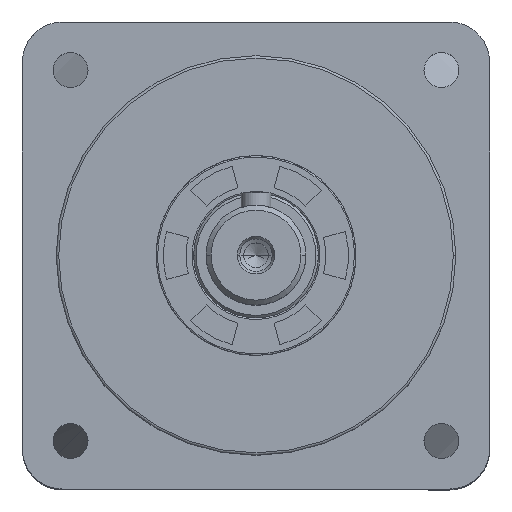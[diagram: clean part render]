
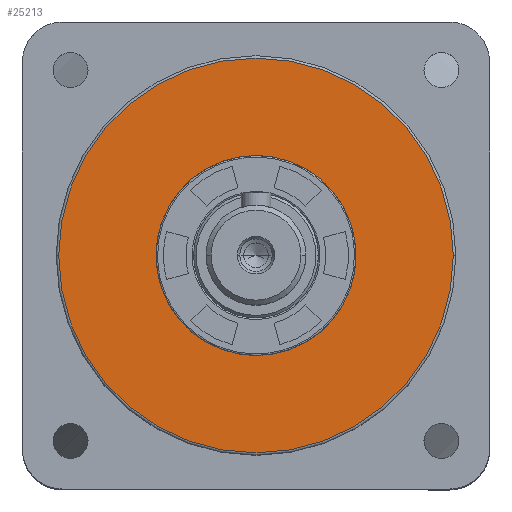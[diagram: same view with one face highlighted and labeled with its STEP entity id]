
A CAD part, top view. The second image highlights one B-rep face of the part: STEP entity #25213.
In plain terms, the highlighted planar face has unit normal (0, 0, 1).
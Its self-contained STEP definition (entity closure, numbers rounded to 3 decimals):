
#741 = DIRECTION ( 'NONE',  ( 1., 0., 0. ) ) ;
#1010 = CARTESIAN_POINT ( 'NONE',  ( -20., 0., 26.1 ) ) ;
#1582 = EDGE_CURVE ( 'NONE', #16801, #4778, #10796, .T. ) ;
#2613 = ORIENTED_EDGE ( 'NONE', *, *, #19435, .T. ) ;
#2721 = DIRECTION ( 'NONE',  ( 0., 0., 1. ) ) ;
#3459 = AXIS2_PLACEMENT_3D ( 'NONE', #27711, #15861, #15747 ) ;
#3501 = FACE_OUTER_BOUND ( 'NONE', #21608, .T. ) ;
#4732 = AXIS2_PLACEMENT_3D ( 'NONE', #15871, #6770, #25408 ) ;
#4778 = VERTEX_POINT ( 'NONE', #23982 ) ;
#5093 = ORIENTED_EDGE ( 'NONE', *, *, #9990, .F. ) ;
#5227 = CIRCLE ( 'NONE', #4732, 20. ) ;
#5784 = CIRCLE ( 'NONE', #3459, 20. ) ;
#6038 = PLANE ( 'NONE',  #26515 ) ;
#6356 = DIRECTION ( 'NONE',  ( 0., 0., 1. ) ) ;
#6770 = DIRECTION ( 'NONE',  ( 0., 0., 1. ) ) ;
#7053 = CARTESIAN_POINT ( 'NONE',  ( 0., 0., 26.1 ) ) ;
#7661 = DIRECTION ( 'NONE',  ( 0., 0., 1. ) ) ;
#8304 = CARTESIAN_POINT ( 'NONE',  ( 0., 0., 26.1 ) ) ;
#8688 = AXIS2_PLACEMENT_3D ( 'NONE', #7053, #2721, #26235 ) ;
#9990 = EDGE_CURVE ( 'NONE', #20168, #24061, #5227, .T. ) ;
#10133 = AXIS2_PLACEMENT_3D ( 'NONE', #10157, #7661, #741 ) ;
#10157 = CARTESIAN_POINT ( 'NONE',  ( 0., 0., 26.1 ) ) ;
#10796 = CIRCLE ( 'NONE', #10133, 39.5 ) ;
#12426 = EDGE_LOOP ( 'NONE', ( #5093, #24479 ) ) ;
#13171 = DIRECTION ( 'NONE',  ( 1., 0., 0. ) ) ;
#15724 = FACE_BOUND ( 'NONE', #12426, .T. ) ;
#15747 = DIRECTION ( 'NONE',  ( 1., 0., 0. ) ) ;
#15861 = DIRECTION ( 'NONE',  ( 0., 0., 1. ) ) ;
#15871 = CARTESIAN_POINT ( 'NONE',  ( 0., 0., 26.1 ) ) ;
#16801 = VERTEX_POINT ( 'NONE', #24686 ) ;
#19163 = CIRCLE ( 'NONE', #8688, 39.5 ) ;
#19435 = EDGE_CURVE ( 'NONE', #4778, #16801, #19163, .T. ) ;
#20168 = VERTEX_POINT ( 'NONE', #20996 ) ;
#20996 = CARTESIAN_POINT ( 'NONE',  ( 20., 0., 26.1 ) ) ;
#21608 = EDGE_LOOP ( 'NONE', ( #29960, #2613 ) ) ;
#23416 = EDGE_CURVE ( 'NONE', #24061, #20168, #5784, .T. ) ;
#23982 = CARTESIAN_POINT ( 'NONE',  ( -39.5, 0., 26.1 ) ) ;
#24061 = VERTEX_POINT ( 'NONE', #1010 ) ;
#24479 = ORIENTED_EDGE ( 'NONE', *, *, #23416, .F. ) ;
#24686 = CARTESIAN_POINT ( 'NONE',  ( 39.5, 0., 26.1 ) ) ;
#25213 = ADVANCED_FACE ( 'NONE', ( #15724, #3501 ), #6038, .T. ) ;
#25408 = DIRECTION ( 'NONE',  ( 1., 0., 0. ) ) ;
#26235 = DIRECTION ( 'NONE',  ( 1., 0., 0. ) ) ;
#26515 = AXIS2_PLACEMENT_3D ( 'NONE', #8304, #6356, #13171 ) ;
#27711 = CARTESIAN_POINT ( 'NONE',  ( 0., 0., 26.1 ) ) ;
#29960 = ORIENTED_EDGE ( 'NONE', *, *, #1582, .T. ) ;
